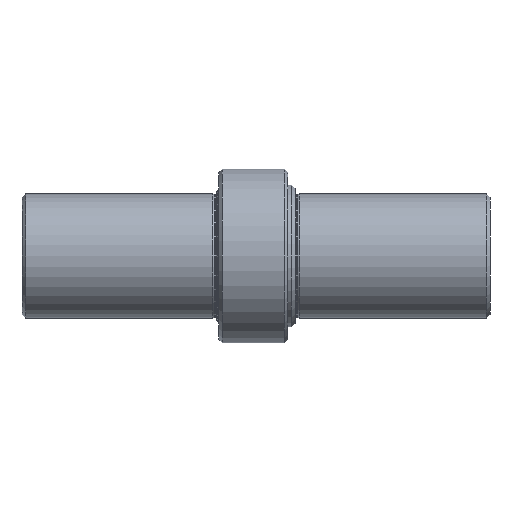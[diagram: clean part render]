
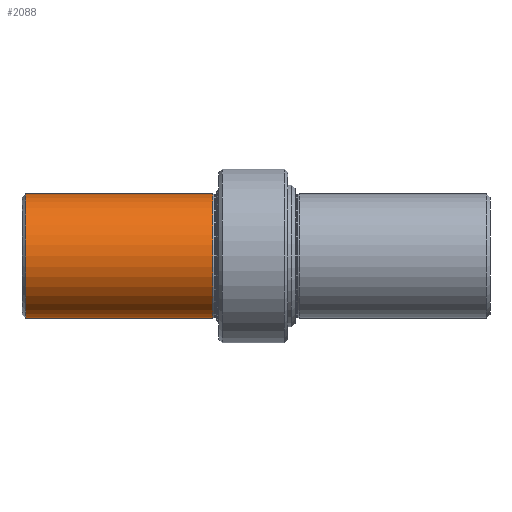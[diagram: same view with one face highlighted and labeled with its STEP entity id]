
A CAD part, front view. The second image highlights one B-rep face of the part: STEP entity #2088.
In plain terms, the highlighted cylindrical face has radius 35 mm (diameter 70 mm), a partial arc.
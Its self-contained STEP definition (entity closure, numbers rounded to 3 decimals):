
#51 = CARTESIAN_POINT ( 'NONE',  ( 2., 0., 35. ) ) ;
#559 = DIRECTION ( 'NONE',  ( -1., 0., 0. ) ) ;
#595 = VERTEX_POINT ( 'NONE', #4511 ) ;
#834 = CARTESIAN_POINT ( 'NONE',  ( -19.463, 0., 35. ) ) ;
#924 = ORIENTED_EDGE ( 'NONE', *, *, #5497, .T. ) ;
#1121 = AXIS2_PLACEMENT_3D ( 'NONE', #4578, #5504, #5539 ) ;
#1239 = CIRCLE ( 'NONE', #5998, 35. ) ;
#1599 = CARTESIAN_POINT ( 'NONE',  ( 107.5, -35., 0. ) ) ;
#1844 = DIRECTION ( 'NONE',  ( 0., 1., 0. ) ) ;
#2067 = DIRECTION ( 'NONE',  ( 1., 0., 0. ) ) ;
#2088 = ADVANCED_FACE ( 'NONE', ( #5344 ), #3513, .T. ) ;
#2121 = ORIENTED_EDGE ( 'NONE', *, *, #3724, .F. ) ;
#2155 = VERTEX_POINT ( 'NONE', #5927 ) ;
#2506 = ORIENTED_EDGE ( 'NONE', *, *, #3292, .T. ) ;
#2833 = DIRECTION ( 'NONE',  ( -1., 0., 0. ) ) ;
#2903 = CARTESIAN_POINT ( 'NONE',  ( -19.463, 0., -35. ) ) ;
#3207 = DIRECTION ( 'NONE',  ( 0., 1., 0. ) ) ;
#3212 = DIRECTION ( 'NONE',  ( 1., 0., 0. ) ) ;
#3229 = CARTESIAN_POINT ( 'NONE',  ( 107.5, 0., 0. ) ) ;
#3292 = EDGE_CURVE ( 'NONE', #5477, #4294, #6299, .T. ) ;
#3319 = LINE ( 'NONE', #2903, #3328 ) ;
#3328 = VECTOR ( 'NONE', #2833, 1000. ) ;
#3330 = ORIENTED_EDGE ( 'NONE', *, *, #3574, .F. ) ;
#3513 = CYLINDRICAL_SURFACE ( 'NONE', #1121, 35. ) ;
#3516 = CIRCLE ( 'NONE', #6319, 35. ) ;
#3554 = ORIENTED_EDGE ( 'NONE', *, *, #5695, .F. ) ;
#3574 = EDGE_CURVE ( 'NONE', #595, #2155, #3319, .T. ) ;
#3724 = EDGE_CURVE ( 'NONE', #5477, #5952, #1239, .T. ) ;
#4209 = AXIS2_PLACEMENT_3D ( 'NONE', #3229, #3212, #3207 ) ;
#4294 = VERTEX_POINT ( 'NONE', #51 ) ;
#4347 = CARTESIAN_POINT ( 'NONE',  ( 107.5, 0., 0. ) ) ;
#4511 = CARTESIAN_POINT ( 'NONE',  ( 107.5, 0., -35. ) ) ;
#4521 = DIRECTION ( 'NONE',  ( 0., 0., -1. ) ) ;
#4530 = DIRECTION ( 'NONE',  ( 1., 0., 0. ) ) ;
#4552 = CARTESIAN_POINT ( 'NONE',  ( 2., 0., 0. ) ) ;
#4578 = CARTESIAN_POINT ( 'NONE',  ( -19.463, 0., 0. ) ) ;
#4712 = CARTESIAN_POINT ( 'NONE',  ( 107.5, 0., 35. ) ) ;
#5307 = EDGE_LOOP ( 'NONE', ( #3330, #3554, #2121, #2506, #924 ) ) ;
#5344 = FACE_OUTER_BOUND ( 'NONE', #5307, .T. ) ;
#5477 = VERTEX_POINT ( 'NONE', #4712 ) ;
#5491 = VECTOR ( 'NONE', #559, 1000. ) ;
#5497 = EDGE_CURVE ( 'NONE', #4294, #2155, #3516, .T. ) ;
#5504 = DIRECTION ( 'NONE',  ( -1., 0., 0. ) ) ;
#5539 = DIRECTION ( 'NONE',  ( 0., 0., 1. ) ) ;
#5625 = CIRCLE ( 'NONE', #4209, 35. ) ;
#5695 = EDGE_CURVE ( 'NONE', #5952, #595, #5625, .T. ) ;
#5927 = CARTESIAN_POINT ( 'NONE',  ( 2., 0., -35. ) ) ;
#5952 = VERTEX_POINT ( 'NONE', #1599 ) ;
#5998 = AXIS2_PLACEMENT_3D ( 'NONE', #4347, #2067, #1844 ) ;
#6299 = LINE ( 'NONE', #834, #5491 ) ;
#6319 = AXIS2_PLACEMENT_3D ( 'NONE', #4552, #4530, #4521 ) ;
